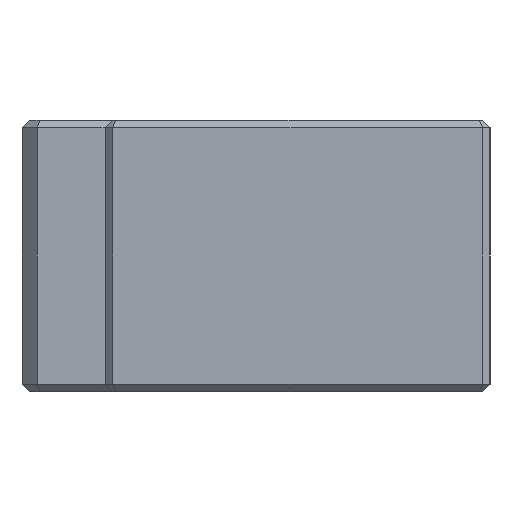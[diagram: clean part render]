
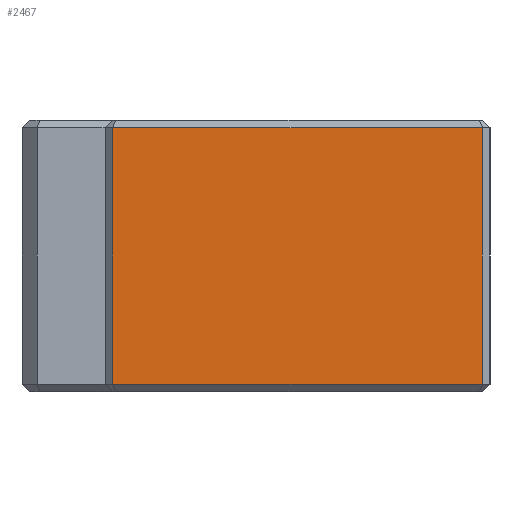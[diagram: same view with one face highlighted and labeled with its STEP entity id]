
A CAD part, left-side view. The second image highlights one B-rep face of the part: STEP entity #2467.
In plain terms, the highlighted planar face has unit normal (-1, 0, 0).
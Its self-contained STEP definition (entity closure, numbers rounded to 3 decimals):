
#1477 = CARTESIAN_POINT ( 'NONE',  ( 0., 0.5, 0.5 ) ) ;
#1478 = LINE ( 'NONE', #1477, #1514 ) ;
#1480 = DIRECTION ( 'NONE',  ( 0., 0., -1. ) ) ;
#1481 = DIRECTION ( 'NONE',  ( 1., 0., 0. ) ) ;
#1491 = CARTESIAN_POINT ( 'NONE',  ( 0., 0.5, 17.5 ) ) ;
#1492 = VECTOR ( 'NONE', #1498, 1000. ) ;
#1493 = CARTESIAN_POINT ( 'NONE',  ( 0., 0., 17.5 ) ) ;
#1494 = CARTESIAN_POINT ( 'NONE',  ( 0., 0., 18. ) ) ;
#1495 = AXIS2_PLACEMENT_3D ( 'NONE', #1494, #1481, #1480 ) ;
#1496 = PLANE ( 'NONE',  #1495 ) ;
#1497 = CARTESIAN_POINT ( 'NONE',  ( 0., 25., 0.5 ) ) ;
#1498 = DIRECTION ( 'NONE',  ( 0., 1., 0. ) ) ;
#1501 = CARTESIAN_POINT ( 'NONE',  ( 0., 0.5, 18. ) ) ;
#1502 = LINE ( 'NONE', #1501, #1523 ) ;
#1513 = DIRECTION ( 'NONE',  ( 0., -1., 0. ) ) ;
#1514 = VECTOR ( 'NONE', #1513, 1000. ) ;
#1515 = CARTESIAN_POINT ( 'NONE',  ( 0., 25., 17.5 ) ) ;
#1517 = DIRECTION ( 'NONE',  ( 0., 0., -1. ) ) ;
#1522 = DIRECTION ( 'NONE',  ( 0., 0., 1. ) ) ;
#1523 = VECTOR ( 'NONE', #1522, 1000. ) ;
#1527 = CARTESIAN_POINT ( 'NONE',  ( 0., 0.5, 0.5 ) ) ;
#1528 = LINE ( 'NONE', #1493, #1492 ) ;
#1529 = FACE_OUTER_BOUND ( 'NONE', #2459, .T. ) ;
#1535 = VECTOR ( 'NONE', #1517, 1000. ) ;
#1536 = CARTESIAN_POINT ( 'NONE',  ( 0., 25., 18. ) ) ;
#1537 = LINE ( 'NONE', #1536, #1535 ) ;
#2455 = VERTEX_POINT ( 'NONE', #1497 ) ;
#2456 = ORIENTED_EDGE ( 'NONE', *, *, #2469, .T. ) ;
#2457 = VERTEX_POINT ( 'NONE', #1527 ) ;
#2459 = EDGE_LOOP ( 'NONE', ( #2456, #2468, #2478, #2461 ) ) ;
#2461 = ORIENTED_EDGE ( 'NONE', *, *, #2462, .T. ) ;
#2462 = EDGE_CURVE ( 'NONE', #2475, #2470, #1528, .T. ) ;
#2467 = ADVANCED_FACE ( 'NONE', ( #1529 ), #1496, .F. ) ;
#2468 = ORIENTED_EDGE ( 'NONE', *, *, #2477, .T. ) ;
#2469 = EDGE_CURVE ( 'NONE', #2470, #2455, #1537, .T. ) ;
#2470 = VERTEX_POINT ( 'NONE', #1515 ) ;
#2475 = VERTEX_POINT ( 'NONE', #1491 ) ;
#2476 = EDGE_CURVE ( 'NONE', #2457, #2475, #1502, .T. ) ;
#2477 = EDGE_CURVE ( 'NONE', #2455, #2457, #1478, .T. ) ;
#2478 = ORIENTED_EDGE ( 'NONE', *, *, #2476, .T. ) ;
